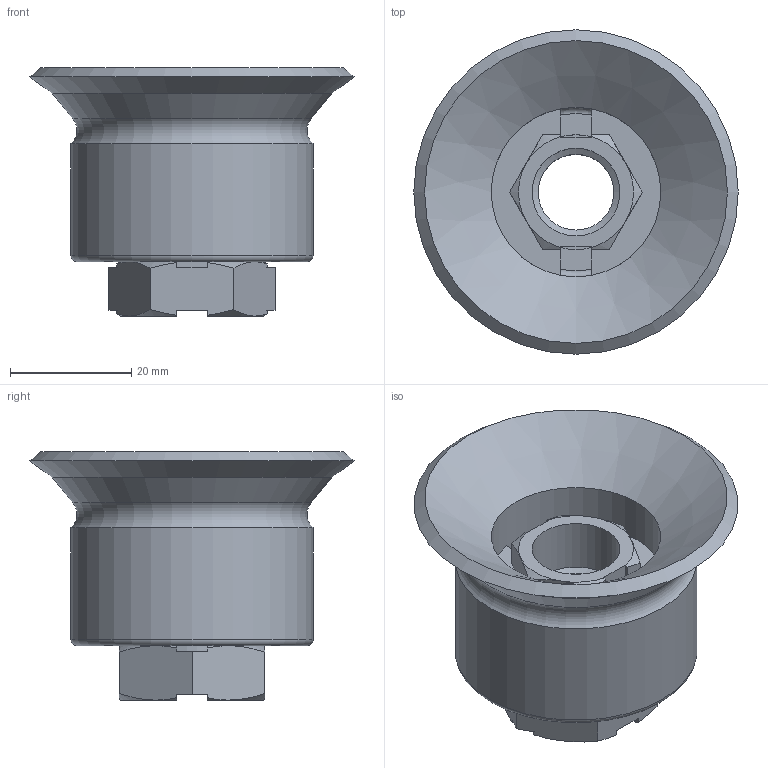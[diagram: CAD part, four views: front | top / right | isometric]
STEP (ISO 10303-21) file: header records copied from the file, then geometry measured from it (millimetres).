
FILE_DESCRIPTION(('STEP AP214'),'1');
FILE_NAME('LFK-M14-PKMG-50M.stp','2026-03-23T07:41:50',(' '),(' '),'Spatial InterOp 3D',' ',' ');
FILE_SCHEMA(('AUTOMOTIVE_DESIGN { 1 0 10303 214 1 1 1 1 }'));
Length unit declared in the file: millimetre
Products named in the file (5): LFK-M14-PKMG-50M; PKMG-50M-W; LFK-M14; NUT; FITTING
Assembly tree (4 placements, depth 3):
  LFK-M14-PKMG-50M
    PKMG-50M-W
    LFK-M14
      NUT
      FITTING
Bounding box: 53.58 x 53.58 x 41 mm (x, y, z)
Volume: 30669 mm3; surface area: 14494.3 mm2
Topology: 3 solids, 3 shells, 108 faces, 287 edges, 185 vertices
Faces by surface type: plane 54, cone 33, cylinder 18, torus 3
Full cylindrical faces by diameter (mm): 12.5 x2, 14.5 x1, 19 x1, 28 x1, 40 x1
Entity records: 4414 total; most frequent: CARTESIAN_POINT 826, ORIENTED_EDGE 540, DIRECTION 500, EDGE_CURVE 270, AXIS2_PLACEMENT_3D 184, VERTEX_POINT 182, LINE 132, VECTOR 132
